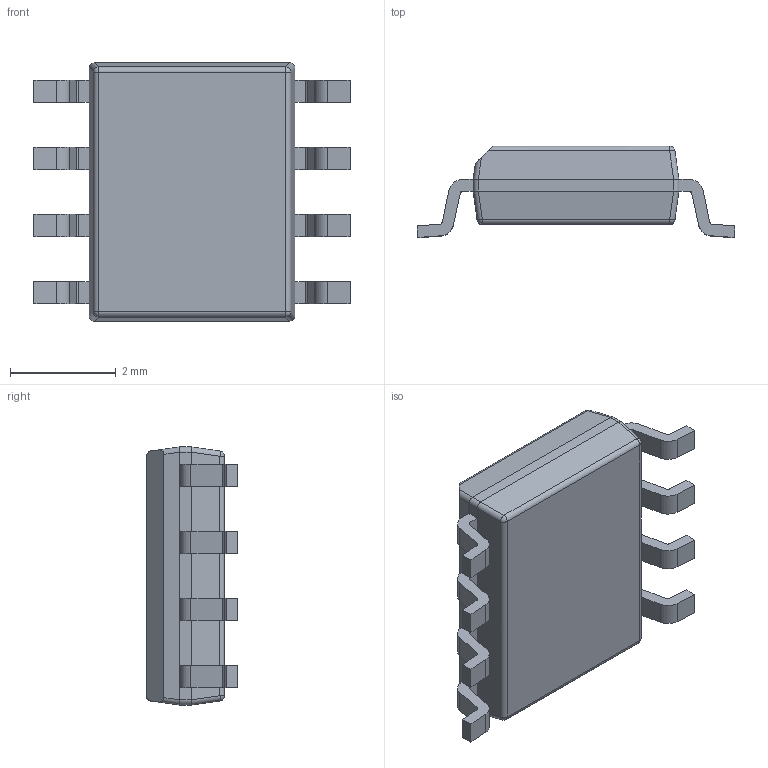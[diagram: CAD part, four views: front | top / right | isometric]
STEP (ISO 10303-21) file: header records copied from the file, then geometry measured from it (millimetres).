
FILE_DESCRIPTION (( 'STEP AP214' ), '1' );
FILE_NAME ('FM25CL64B-G.STEP', '2023-03-17T15:41:58', ( '' ), ( '' ), 'SwSTEP 2.0', 'SolidWorks 2021', '' );
FILE_SCHEMA (( 'AUTOMOTIVE_DESIGN' ));
Length unit declared in the file: millimetre
Products named in the file (1): FM25CL64B-G
Bounding box: 6.02 x 1.73 x 4.89 mm (x, y, z)
Volume: 28.1 mm3; surface area: 77.7 mm2
Topology: 10 solids, 10 shells, 159 faces, 396 edges, 258 vertices
Faces by surface type: plane 98, cylinder 55, sphere 6
Entity records: 4811 total; most frequent: CARTESIAN_POINT 898, ORIENTED_EDGE 792, DIRECTION 778, EDGE_CURVE 396, VECTOR 278, LINE 278, VERTEX_POINT 258, AXIS2_PLACEMENT_3D 250
